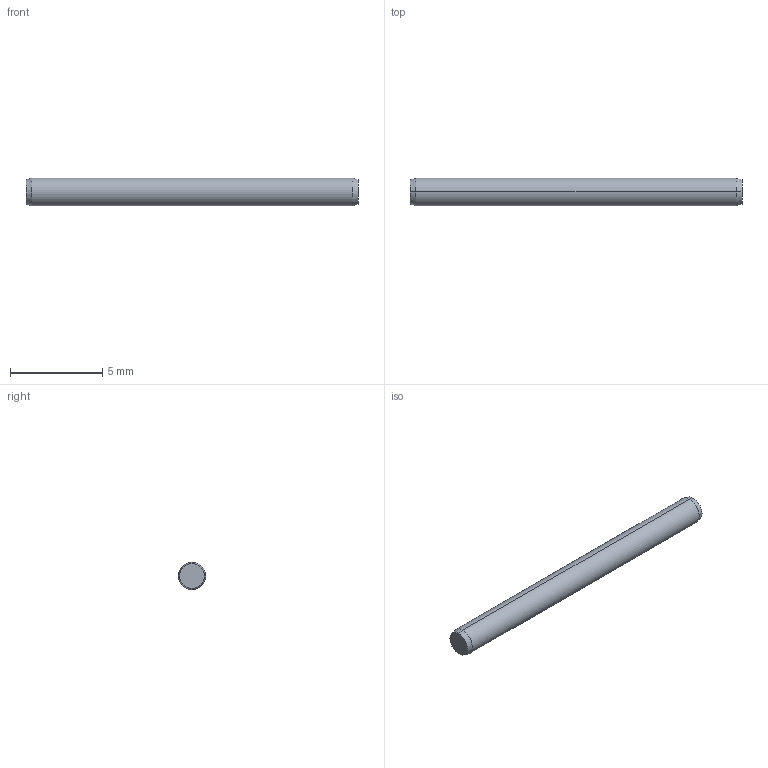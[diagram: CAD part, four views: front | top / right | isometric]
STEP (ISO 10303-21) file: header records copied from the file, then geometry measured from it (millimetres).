
FILE_DESCRIPTION (( 'STEP AP203' ), '1' );
FILE_NAME ('P1206.015-018.step', '2017-06-14T07:54:30', ( 'User' ), ( '' ), 'SwSTEP 2.0', 'SolidWorks 2009', '' );
FILE_SCHEMA (( 'CONFIG_CONTROL_DESIGN' ));
Length unit declared in the file: millimetre
Products named in the file (1): P1206.015-018
Bounding box: 18 x 1.5 x 1.5 mm (x, y, z)
Volume: 31.7 mm3; surface area: 87.6 mm2
Topology: 1 solids, 1 shells, 8 faces, 14 edges, 8 vertices
Faces by surface type: cone 4, cylinder 2, plane 2
Entity records: 271 total; most frequent: DIRECTION 40, CARTESIAN_POINT 31, ORIENTED_EDGE 28, AXIS2_PLACEMENT_3D 17, EDGE_CURVE 14, VERTEX_POINT 8, ADVANCED_FACE 8, EDGE_LOOP 8
